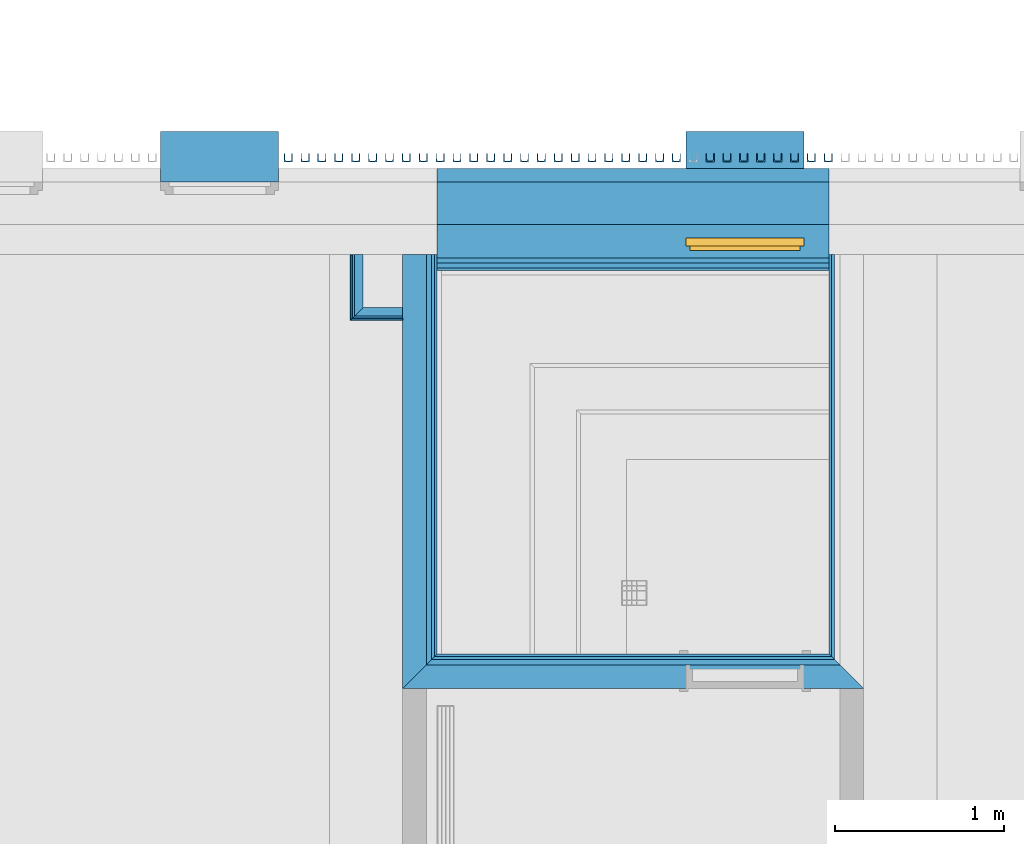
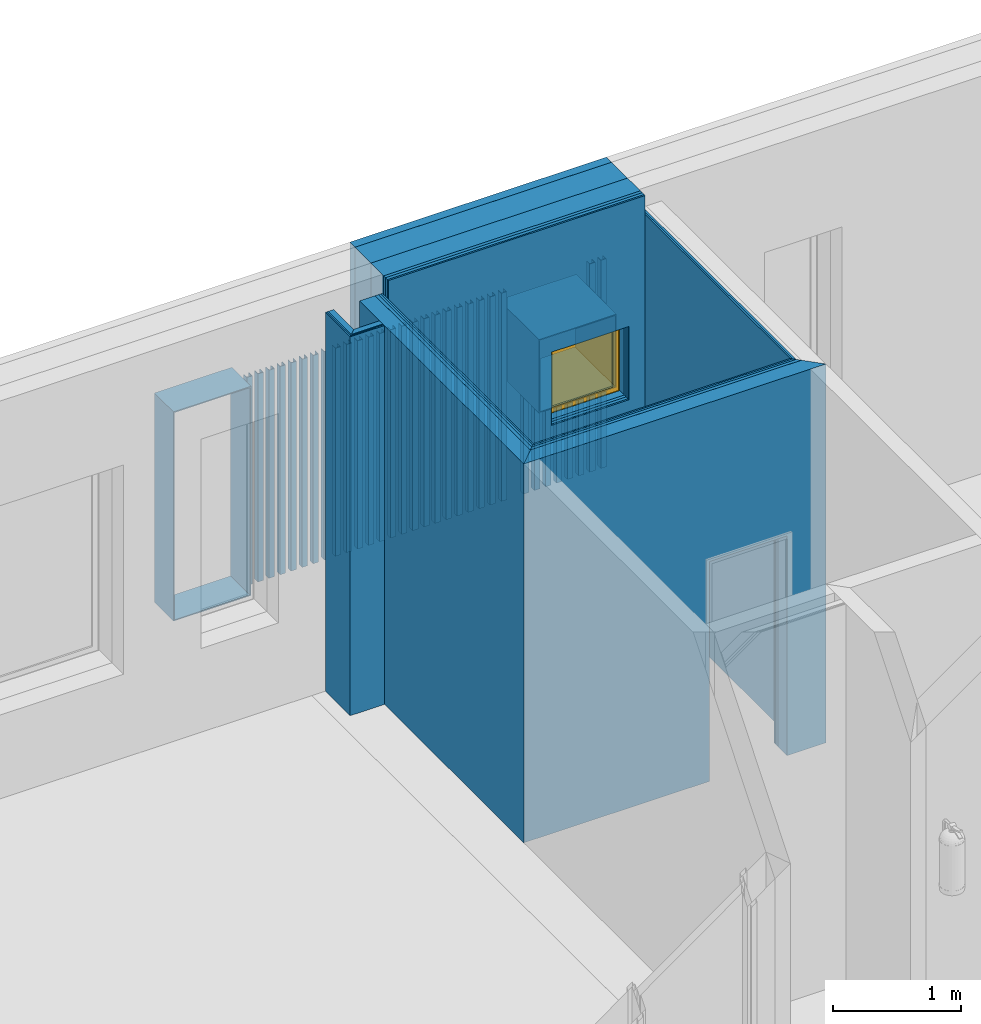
# One storey, part 27 of 100: 34 discrete accessories, 22 building element parts, 1 window, 2 openings, 6 elements without a shape of their own.
"""IFC2X3 building model written with IfcOpenShell, lengths in millimetres."""

from ifc_helpers import new_model, entity, si_unit, converted_unit, derived_unit, money_unit, direction, frame, origin_with_axes, origin_2d_with_axis, place, context, subcontext, project, spatial, polyline, rectangle, outline, extrude, open_shell, faceted_brep, surface_model, source, transform, mapped, material, type_object, element, fill, aggregate, save


model = new_model("IFC2X3")

# Units and contexts
model_context = context("Model", 3, precision=0.01, world=origin_with_axes(), true_north=direction((0.0, 1.0)))
body_context = subcontext(model_context, "Body", "Model", "MODEL_VIEW")
ifc_project = project(units=[si_unit("LENGTHUNIT", "METRE", prefix="MILLI"), si_unit("AREAUNIT", "SQUARE_METRE"), si_unit("VOLUMEUNIT", "CUBIC_METRE"), converted_unit("PLANEANGLEUNIT", "DEGREE", entity("IfcPlaneAngleMeasure", 0.0174532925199), si_unit("PLANEANGLEUNIT", "RADIAN"), dimensions=[0, 0, 0, 0, 0, 0, 0]), si_unit("SOLIDANGLEUNIT", "STERADIAN"), money_unit("EUR"), converted_unit("TIMEUNIT", "Year", entity("IfcTimeMeasure", 31556926.0), si_unit("TIMEUNIT", "SECOND"), dimensions=[0, 0, 1, 0, 0, 0, 0]), si_unit("MASSUNIT", "GRAM", prefix="KILO"), si_unit("THERMODYNAMICTEMPERATUREUNIT", "DEGREE_CELSIUS"), si_unit("LUMINOUSINTENSITYUNIT", "LUMEN"), si_unit("ENERGYUNIT", "JOULE", prefix="MEGA"), derived_unit("THERMALCONDUCTANCEUNIT", [(si_unit("POWERUNIT", "WATT"), 1), (si_unit("LENGTHUNIT", "METRE"), -1), (si_unit("THERMODYNAMICTEMPERATUREUNIT", "KELVIN"), -1)]), derived_unit("SPECIFICHEATCAPACITYUNIT", [(si_unit("ENERGYUNIT", "JOULE"), 1), (si_unit("MASSUNIT", "GRAM", prefix="KILO"), -1), (si_unit("THERMODYNAMICTEMPERATUREUNIT", "KELVIN"), -1)]), derived_unit("MASSDENSITYUNIT", [(si_unit("MASSUNIT", "GRAM", prefix="KILO"), 1), (si_unit("VOLUMEUNIT", "CUBIC_METRE"), -1)])], contexts=[model_context])

# Site, building, storey
site_placement = place(None, origin_with_axes())
site = spatial("IfcSite", under=ifc_project, at=site_placement, Name="Politse- ja Piirivalveameti ning Päästeameti ühishoone", CompositionType="ELEMENT")
building_placement = place(site_placement, origin_with_axes())
building = spatial("IfcBuilding", under=site, at=building_placement, Name="Politse- ja Piirivalveameti ning Päästeameti ühishoone", CompositionType="ELEMENT")
storey_placement = place(building_placement, frame((0.0, 0.0, 3800.0), z_axis=(0.0, 0.0, 1.0), x_axis=(1.0, 0.0, 0.0)))
storey = spatial("IfcBuildingStorey", under=building, at=storey_placement, Name="Teine korrus", CompositionType="ELEMENT", Elevation=3800.0)

# Window
window_style = type_object("IfcWindowStyle", Name="Window 23", ConstructionType="NOTDEFINED", OperationType="SINGLE_PANEL", ParameterTakesPrecedence=False, Sizeable=False)
shared_shape_1 = source(origin_with_axes(), body_context, "Body", "SurfaceModel", [
    faceted_brep([(-325.0, 0.0, 650.0), (-350.0, 0.0, 650.0), (-350.0, -50.0, 650.0), (-300.0, -50.0, 650.0), (-300.0, -25.0, 650.0), (-325.0, -25.0, 650.0), (-325.0, 0.0, 50.0), (-350.0, 0.0, 50.0), (-350.0, -50.0, 50.0), (-300.0, -50.0, 50.0), (-300.0, -25.0, 50.0), (-325.0, -25.0, 50.0)], [[[0, 1, 2, 3, 4, 5]], [[6, 7, 1, 0]], [[1, 7, 8, 2]], [[2, 8, 9, 3]], [[4, 3, 9, 10]], [[10, 11, 5, 4]], [[5, 11, 6, 0]], [[11, 10, 9, 8, 7, 6]]]),
    faceted_brep([(300.0, -25.0, 650.0), (300.0, -50.0, 650.0), (350.0, -50.0, 650.0), (350.0, 0.0, 650.0), (325.0, 0.0, 650.0), (325.0, -25.0, 650.0), (300.0, -25.0, 50.0), (300.0, -50.0, 50.0), (350.0, -50.0, 50.0), (350.0, 0.0, 50.0), (325.0, 0.0, 50.0), (325.0, -25.0, 50.0)], [[[0, 1, 2, 3, 4, 5]], [[6, 7, 1, 0]], [[8, 2, 1, 7]], [[9, 3, 2, 8]], [[4, 3, 9, 10]], [[10, 11, 5, 4]], [[5, 11, 6, 0]], [[11, 10, 9, 8, 7, 6]]]),
    faceted_brep([(300.0, -25.0, 50.0), (300.0, -50.0, 50.0), (350.0, -50.0, 50.0), (350.0, 0.0, 50.0), (325.0, 0.0, 50.0), (325.0, -25.0, 50.0), (-300.0, -25.0, 50.0), (-300.0, -50.0, 50.0), (-350.0, -50.0, 50.0), (-350.0, -50.0, 0.0), (350.0, -50.0, 0.0), (350.0, 0.0, 0.0), (-325.0, 0.0, 25.0), (325.0, 0.0, 25.0), (-350.0, 0.0, 0.0), (-350.0, 0.0, 50.0), (-325.0, 0.0, 50.0), (325.0, -25.0, 25.0), (-325.0, -25.0, 25.0), (-325.0, -25.0, 50.0)], [[[0, 1, 2, 3, 4, 5]], [[6, 7, 1, 0]], [[8, 9, 10, 2, 1, 7]], [[11, 3, 2, 10]], [[12, 13, 4, 3, 11, 14, 15, 16]], [[13, 17, 5, 4]], [[5, 17, 18, 19, 6, 0]], [[19, 16, 15, 8, 7, 6]], [[15, 14, 9, 8]], [[14, 11, 10, 9]], [[12, 18, 17, 13]], [[19, 18, 12, 16]]]),
    faceted_brep([(-325.0, 0.0, 650.0), (-350.0, 0.0, 650.0), (-350.0, 0.0, 700.0), (350.0, 0.0, 700.0), (350.0, 0.0, 650.0), (325.0, 0.0, 650.0), (325.0, 0.0, 675.0), (-325.0, 0.0, 675.0), (-325.0, -25.0, 650.0), (-300.0, -25.0, 650.0), (-300.0, -50.0, 650.0), (-350.0, -50.0, 650.0), (-350.0, -50.0, 700.0), (350.0, -50.0, 700.0), (350.0, -50.0, 650.0), (325.0, -25.0, 650.0), (300.0, -50.0, 650.0), (300.0, -25.0, 650.0), (325.0, -25.0, 675.0), (-325.0, -25.0, 675.0)], [[[0, 1, 2, 3, 4, 5, 6, 7]], [[8, 9, 10, 11, 1, 0]], [[2, 1, 11, 12]], [[3, 2, 12, 13]], [[4, 3, 13, 14]], [[15, 5, 4, 14, 16, 17]], [[5, 15, 18, 6]], [[6, 18, 19, 7]], [[7, 19, 8, 0]], [[17, 9, 8, 19, 18, 15]], [[17, 16, 10, 9]], [[14, 13, 12, 11, 10, 16]]]),
    faceted_brep([(-275.0, -25.0, 625.0), (-275.0, 25.0, 625.0), (-325.0, 25.0, 625.0), (-325.0, -25.0, 625.0), (-275.0, -25.0, 75.0), (-275.0, 25.0, 75.0), (-325.0, 25.0, 75.0), (-325.0, -25.0, 75.0)], [[[0, 1, 2, 3]], [[4, 5, 1, 0]], [[1, 5, 6, 2]], [[3, 2, 6, 7]], [[0, 3, 7, 4]], [[7, 6, 5, 4]]]),
    faceted_brep([(275.0, -25.0, 75.0), (275.0, 25.0, 75.0), (325.0, 25.0, 75.0), (325.0, -25.0, 75.0), (275.0, -25.0, 625.0), (275.0, 25.0, 625.0), (325.0, 25.0, 625.0), (325.0, -25.0, 625.0)], [[[0, 1, 2, 3]], [[4, 5, 1, 0]], [[1, 5, 6, 2]], [[3, 2, 6, 7]], [[0, 3, 7, 4]], [[7, 6, 5, 4]]]),
    faceted_brep([(325.0, -25.0, 25.0), (325.0, 25.0, 25.0), (325.0, 25.0, 75.0), (325.0, -25.0, 75.0), (-325.0, -25.0, 25.0), (-325.0, 25.0, 25.0), (-325.0, 25.0, 75.0), (-275.0, 25.0, 75.0), (275.0, 25.0, 75.0), (275.0, -25.0, 75.0), (-275.0, -25.0, 75.0), (-325.0, -25.0, 75.0)], [[[0, 1, 2, 3]], [[4, 5, 1, 0]], [[1, 5, 6, 7, 8, 2]], [[3, 2, 8, 9]], [[0, 3, 9, 10, 11, 4]], [[11, 6, 5, 4]], [[10, 7, 6, 11]], [[9, 8, 7, 10]]]),
    faceted_brep([(-325.0, -25.0, 675.0), (-325.0, 25.0, 675.0), (-325.0, 25.0, 625.0), (-325.0, -25.0, 625.0), (325.0, -25.0, 675.0), (325.0, 25.0, 675.0), (325.0, 25.0, 625.0), (275.0, 25.0, 625.0), (-275.0, 25.0, 625.0), (-275.0, -25.0, 625.0), (275.0, -25.0, 625.0), (325.0, -25.0, 625.0)], [[[0, 1, 2, 3]], [[4, 5, 1, 0]], [[1, 5, 6, 7, 8, 2]], [[3, 2, 8, 9]], [[0, 3, 9, 10, 11, 4]], [[11, 6, 5, 4]], [[10, 7, 6, 11]], [[9, 8, 7, 10]]]),
    surface_model("IfcShellBasedSurfaceModel", [(-275.0, -10.0, 75.0), (275.0, -10.0, 75.0), (275.0, -10.0, 625.0), (-275.0, -10.0, 625.0)], [open_shell([[[0, 1, 2, 3]]])]),
    surface_model("IfcShellBasedSurfaceModel", [(-275.0, 10.0, 75.0), (-275.0, 10.0, 625.0), (275.0, 10.0, 625.0), (275.0, 10.0, 75.0)], [open_shell([[[0, 1, 2, 3]]])]),
])
wall_4_placement = place(storey_placement, frame((43248.4115065, 20999.9530061, 0.0), z_axis=(0.0, 0.0, 1.0), x_axis=(1.0, -3.93175654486e-07, 0.0)))
opening_2_placement = place(wall_4_placement, frame((1822.99996265, 0.0, 1900.0), z_axis=(0.0, 0.0, 1.0), x_axis=(1.0, 0.0, 0.0)))
window_placement = place(opening_2_placement, frame((350.0, 0.0, 0.0), z_axis=(0.0, 0.0, 1.0), x_axis=(-1.0, 0.0, 0.0)))
window = element("IfcWindow", 1, at=window_placement, inside=storey, type_object=window_style, Name="A-04", ObjectType="WINDOW", OverallHeight=700.0, OverallWidth=700.0, context=body_context, shape_type="MappedRepresentation", body=[
    mapped(shared_shape_1, transform((350.0, -50.0, 0.0))),
])

# Discrete accessories
ifc_material_1 = material(Name="SV-01_Krohv - Kips")
discrete_accessory_type_1 = type_object("IfcDiscreteAccessoryType", Name="Architrave 01 23")
shared_shape_2 = source(origin_with_axes(), body_context, "Body", "Brep", [
    faceted_brep([(350.0, 0.0, -10.0), (350.0, -300.182356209, -10.0), (-350.0, -300.182356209, -10.0), (-350.0, 0.0, -10.0), (340.0, 0.0, 0.0), (340.0, -300.182356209, 0.0), (-340.0, -300.182356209, 0.0), (-340.0, 0.0, 0.0)], [[[0, 1, 2, 3]], [[4, 5, 1, 0]], [[1, 5, 6, 2]], [[3, 2, 6, 7]], [[0, 3, 7, 4]], [[7, 6, 5, 4]]]),
    faceted_brep([(-350.0, 0.0, -10.0), (-350.0, -300.182356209, -10.0), (-350.0, -300.182356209, 1990.0), (-350.0, 0.0, 1990.0), (-340.0, 0.0, 0.0), (-340.0, -300.182356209, 0.0), (-340.0, -300.182356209, 1980.0), (-340.0, 0.0, 1980.0)], [[[0, 1, 2, 3]], [[4, 5, 1, 0]], [[1, 5, 6, 2]], [[3, 2, 6, 7]], [[0, 3, 7, 4]], [[7, 6, 5, 4]]]),
    faceted_brep([(-350.0, 0.0, 1990.0), (-350.0, -300.182356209, 1990.0), (350.0, -300.182356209, 1990.0), (350.0, 0.0, 1990.0), (-340.0, 0.0, 1980.0), (-340.0, -300.182356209, 1980.0), (340.0, -300.182356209, 1980.0), (340.0, 0.0, 1980.0)], [[[0, 1, 2, 3]], [[4, 5, 1, 0]], [[1, 5, 6, 2]], [[3, 2, 6, 7]], [[0, 3, 7, 4]], [[7, 6, 5, 4]]]),
    faceted_brep([(350.0, 0.0, 1990.0), (350.0, -300.182356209, 1990.0), (350.0, -300.182356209, -10.0), (350.0, 0.0, -10.0), (340.0, 0.0, 1980.0), (340.0, -300.182356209, 1980.0), (340.0, -300.182356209, 0.0), (340.0, 0.0, 0.0)], [[[0, 1, 2, 3]], [[4, 5, 1, 0]], [[1, 5, 6, 2]], [[3, 2, 6, 7]], [[0, 3, 7, 4]], [[7, 6, 5, 4]]]),
])
discrete_accessory_1_placement = place(storey_placement, frame((41959.1843169, 21429.9520832, 810.0), z_axis=(0.0, 0.0, 1.0), x_axis=(-1.0, 0.0, 0.0)))
element("IfcDiscreteAccessory", 2, at=discrete_accessory_1_placement, inside=storey, type_object=discrete_accessory_type_1, material=ifc_material_1, Name="AKNARAAM 01", context=body_context, shape_type="MappedRepresentation", body=[
    mapped(shared_shape_2, transform((0.0, 0.0, 0.0))),
])
ifc_material_2 = material(Name="ET-05_Teras")
discrete_accessory_type_2 = type_object("IfcDiscreteAccessoryType", Name="UAP Column 23")
shared_shape_3 = source(origin_with_axes(), body_context, "Body", "Brep", [
    faceted_brep([(-25.0, -25.0, 0.0), (-25.0, -25.0, 1990.0), (-25.0, -20.0, 1990.0), (-25.0, -20.0, 0.0), (25.0, -25.0, 0.0), (25.0, -25.0, 1990.0), (25.0, 25.0, 1990.0), (-25.0, 25.0, 1990.0), (-25.0, 20.0, 1990.0), (8.5, 20.0, 1990.0), (14.25, 18.4592921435, 1990.0), (18.4592921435, 14.25, 1990.0), (20.0, 8.5, 1990.0), (20.0, -8.5, 1990.0), (18.4592921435, -14.25, 1990.0), (14.25, -18.4592921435, 1990.0), (8.5, -20.0, 1990.0), (8.5, -20.0, 0.0), (14.25, -18.4592921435, 0.0), (18.4592921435, -14.25, 0.0), (20.0, -8.5, 0.0), (20.0, 8.5, 0.0), (18.4592921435, 14.25, 0.0), (14.25, 18.4592921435, 0.0), (8.5, 20.0, 0.0), (-25.0, 20.0, 0.0), (-25.0, 25.0, 0.0), (25.0, 25.0, 0.0)], [[[0, 1, 2, 3]], [[4, 5, 1, 0]], [[1, 5, 6, 7, 8, 9, 10, 11, 12, 13, 14, 15, 16, 2]], [[3, 2, 16, 17]], [[0, 3, 17, 18, 19, 20, 21, 22, 23, 24, 25, 26, 27, 4]], [[27, 6, 5, 4]], [[26, 7, 6, 27]], [[25, 8, 7, 26]], [[24, 9, 8, 25]], [[23, 10, 9, 24]], [[22, 11, 10, 23]], [[21, 12, 11, 22]], [[20, 13, 12, 21]], [[19, 14, 13, 20]], [[18, 15, 14, 19]], [[17, 16, 15, 18]]]),
])
for number, where, z_axis, x_axis in (
    (3, (44365.4116664, 21574.5962075, 810.000049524), (0.0, 0.0, 1.0), (1.30049800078e-07, -1.0, 0.0)),
    (4, (44465.4116664, 21574.5962205, 810.000049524), (0.0, 0.0, 1.0), (1.30049800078e-07, -1.0, 0.0)),
    (5, (44565.4116664, 21574.5962336, 810.000049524), (0.0, 0.0, 1.0), (1.30049800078e-07, -1.0, 0.0)),
    (6, (43965.4116664, 21574.5961555, 810.000049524), (0.0, 0.0, 1.0), (1.30049800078e-07, -1.0, 0.0)),
    (7, (44065.4116664, 21574.5961685, 810.000049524), (0.0, 0.0, 1.0), (1.30049800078e-07, -1.0, 0.0)),
    (8, (44165.4116664, 21574.5961815, 810.000049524), (0.0, 0.0, 1.0), (1.30049800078e-07, -1.0, 0.0)),
    (9, (44265.4116664, 21574.5961945, 810.000049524), (0.0, 0.0, 1.0), (1.30049800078e-07, -1.0, 0.0)),
    (10, (43665.4116664, 21574.5961165, 810.000049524), (0.0, 0.0, 1.0), (1.30049800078e-07, -1.0, 0.0)),
    (11, (43765.4116664, 21574.5961295, 810.000049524), (0.0, 0.0, 1.0), (1.30049800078e-07, -1.0, 0.0)),
    (12, (43865.4116664, 21574.5961425, 810.000049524), (0.0, 0.0, 1.0), (1.30049800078e-07, -1.0, 0.0)),
    (13, (43365.4116664, 21574.5960775, 810.000049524), (0.0, 0.0, 1.0), (1.30049800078e-07, -1.0, 0.0)),
    (14, (43465.4116664, 21574.5960905, 810.000049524), (0.0, 0.0, 1.0), (1.30049800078e-07, -1.0, 0.0)),
    (15, (43565.4116664, 21574.5961035, 810.000049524), (0.0, 0.0, 1.0), (1.30049800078e-07, -1.0, 0.0)),
    (16, (43065.4116664, 21574.5960385, 810.000049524), (0.0, 0.0, 1.0), (1.30049800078e-07, -1.0, 0.0)),
    (17, (43165.4116664, 21574.5960515, 810.000049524), (0.0, 0.0, 1.0), (1.30049800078e-07, -1.0, 0.0)),
    (18, (43265.4116664, 21574.5960645, 810.000049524), (0.0, 0.0, 1.0), (1.30049800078e-07, -1.0, 0.0)),
    (19, (42865.4116664, 21574.5960125, 810.000049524), (0.0, 0.0, 1.0), (1.30049800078e-07, -1.0, 0.0)),
    (20, (42965.4116664, 21574.5960255, 810.000049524), (0.0, 0.0, 1.0), (1.30049800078e-07, -1.0, 0.0)),
    (21, (44665.4116664, 21574.5962466, 810.000049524), (0.0, 0.0, 1.0), (1.30049800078e-07, -1.0, 0.0)),
    (22, (42665.4116664, 21574.5959865, 810.000049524), (0.0, 0.0, 1.0), (1.30049800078e-07, -1.0, 0.0)),
    (23, (42765.4116664, 21574.5959995, 810.000049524), (0.0, 0.0, 1.0), (1.30049800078e-07, -1.0, 0.0)),
    (24, (42465.4116664, 21574.5959604, 810.000049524), (0.0, 0.0, 1.0), (1.30049800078e-07, -1.0, 0.0)),
    (25, (42565.4116664, 21574.5959735, 810.000049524), (0.0, 0.0, 1.0), (1.30049800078e-07, -1.0, 0.0)),
    (26, (42365.4116664, 21574.5959474, 810.000049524), (0.0, 0.0, 1.0), (1.30049800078e-07, -1.0, 0.0)),
    (27, (45464.9647265, 21574.5961035, 810.000049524), (0.0, 0.0, 1.0), (1.30049800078e-07, -1.0, 0.0)),
    (28, (45564.9647265, 21574.5961165, 810.000049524), (0.0, 0.0, 1.0), (1.30049800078e-07, -1.0, 0.0)),
):
    element("IfcDiscreteAccessory", number, at=place(storey_placement, frame(where, z_axis=z_axis, x_axis=x_axis)), inside=storey, type_object=discrete_accessory_type_2, material=ifc_material_2, Name="Fassaadiribid", context=body_context, shape_type="MappedRepresentation", body=[
        mapped(shared_shape_3, transform((0.0, 0.0, 0.0))),
    ])
shared_shape_4 = source(origin_with_axes(), body_context, "Body", "Brep", [
    faceted_brep([(350.0, 0.0, -10.0), (350.0, -630.0, -10.0), (-350.0, -630.0, -10.0), (-350.0, 0.0, -10.0), (340.0, 0.0, 0.0), (340.0, -630.0, 0.0), (-340.0, -630.0, 0.0), (-340.0, 0.0, 0.0)], [[[0, 1, 2, 3]], [[4, 5, 1, 0]], [[1, 5, 6, 2]], [[3, 2, 6, 7]], [[0, 3, 7, 4]], [[7, 6, 5, 4]]]),
    faceted_brep([(-350.0, 0.0, -10.0), (-350.0, -630.0, -10.0), (-350.0, -630.0, 690.0), (-350.0, 0.0, 690.0), (-340.0, 0.0, 0.0), (-340.0, -630.0, 0.0), (-340.0, -630.0, 680.0), (-340.0, 0.0, 680.0)], [[[0, 1, 2, 3]], [[4, 5, 1, 0]], [[1, 5, 6, 2]], [[3, 2, 6, 7]], [[0, 3, 7, 4]], [[7, 6, 5, 4]]]),
    faceted_brep([(-350.0, 0.0, 690.0), (-350.0, -630.0, 690.0), (350.0, -630.0, 690.0), (350.0, 0.0, 690.0), (-340.0, 0.0, 680.0), (-340.0, -630.0, 680.0), (340.0, -630.0, 680.0), (340.0, 0.0, 680.0)], [[[0, 1, 2, 3]], [[4, 5, 1, 0]], [[1, 5, 6, 2]], [[3, 2, 6, 7]], [[0, 3, 7, 4]], [[7, 6, 5, 4]]]),
    faceted_brep([(350.0, 0.0, 690.0), (350.0, -630.0, 690.0), (350.0, -630.0, -10.0), (350.0, 0.0, -10.0), (340.0, 0.0, 680.0), (340.0, -630.0, 680.0), (340.0, -630.0, 0.0), (340.0, 0.0, 0.0)], [[[0, 1, 2, 3]], [[4, 5, 1, 0]], [[1, 5, 6, 2]], [[3, 2, 6, 7]], [[0, 3, 7, 4]], [[7, 6, 5, 4]]]),
])
discrete_accessory_2_placement = place(storey_placement, frame((45071.4115085, 21099.952427, 1910.0), z_axis=(0.0, 0.0, 1.0), x_axis=(-1.0, 0.0, 0.0)))
element("IfcDiscreteAccessory", 29, at=discrete_accessory_2_placement, inside=storey, type_object=discrete_accessory_type_1, material=ifc_material_1, Name="AKNARAAM 01", context=body_context, shape_type="MappedRepresentation", body=[
    mapped(shared_shape_4, transform((0.0, 0.0, 0.0))),
])
shared_shape_5 = source(origin_with_axes(), body_context, "Body", "Brep", [
    faceted_brep([(-25.0, -25.0, 0.0), (-25.0, -25.0, 1089.99995048), (-25.0, -20.0, 1089.99995048), (-25.0, -20.0, 0.0), (25.0, -25.0, 0.0), (25.0, -25.0, 1089.99995048), (25.0, 25.0, 1089.99995048), (-25.0, 25.0, 1089.99995048), (-25.0, 20.0, 1089.99995048), (8.5, 20.0, 1089.99995048), (14.25, 18.4592921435, 1089.99995048), (18.4592921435, 14.25, 1089.99995048), (20.0, 8.5, 1089.99995048), (20.0, -8.5, 1089.99995048), (18.4592921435, -14.25, 1089.99995048), (14.25, -18.4592921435, 1089.99995048), (8.5, -20.0, 1089.99995048), (8.5, -20.0, 0.0), (14.25, -18.4592921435, 0.0), (18.4592921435, -14.25, 0.0), (20.0, -8.5, 0.0), (20.0, 8.5, 0.0), (18.4592921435, 14.25, 0.0), (14.25, 18.4592921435, 0.0), (8.5, 20.0, 0.0), (-25.0, 20.0, 0.0), (-25.0, 25.0, 0.0), (25.0, 25.0, 0.0)], [[[0, 1, 2, 3]], [[4, 5, 1, 0]], [[1, 5, 6, 7, 8, 9, 10, 11, 12, 13, 14, 15, 16, 2]], [[3, 2, 16, 17]], [[0, 3, 17, 18, 19, 20, 21, 22, 23, 24, 25, 26, 27, 4]], [[27, 6, 5, 4]], [[26, 7, 6, 27]], [[25, 8, 7, 26]], [[24, 9, 8, 25]], [[23, 10, 9, 24]], [[22, 11, 10, 23]], [[21, 12, 11, 22]], [[20, 13, 12, 21]], [[19, 14, 13, 20]], [[18, 15, 14, 19]], [[17, 16, 15, 18]]]),
])
for number, where, z_axis, x_axis in (
    (30, (45264.9647265, 21574.5960775, 810.000049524), (0.0, 0.0, 1.0), (1.30049800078e-07, -1.0, 0.0)),
    (31, (45364.9647265, 21574.5960905, 810.000049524), (0.0, 0.0, 1.0), (1.30049800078e-07, -1.0, 0.0)),
    (32, (45064.9647265, 21574.5960515, 810.000049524), (0.0, 0.0, 1.0), (1.30049800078e-07, -1.0, 0.0)),
    (33, (45164.9647265, 21574.5960645, 810.000049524), (0.0, 0.0, 1.0), (1.30049800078e-07, -1.0, 0.0)),
    (34, (44864.9647265, 21574.5960255, 810.000049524), (0.0, 0.0, 1.0), (1.30049800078e-07, -1.0, 0.0)),
    (35, (44964.9647265, 21574.5960385, 810.000049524), (0.0, 0.0, 1.0), (1.30049800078e-07, -1.0, 0.0)),
):
    element("IfcDiscreteAccessory", number, at=place(storey_placement, frame(where, z_axis=z_axis, x_axis=x_axis)), inside=storey, type_object=discrete_accessory_type_2, material=ifc_material_2, Name="Fassaadiribid", context=body_context, shape_type="MappedRepresentation", body=[
        mapped(shared_shape_5, transform((0.0, 0.0, 0.0))),
    ])

# Wall, building element parts
wall_type_1 = type_object("IfcWallType", Name="SS-07_Sisesein - leiliruum 205", PredefinedType="NOTDEFINED")
wall_1_placement = place(storey_placement, frame((43043.4114692, 20999.8947978, 0.0), z_axis=(0.0, 0.0, 1.0), x_axis=(0.0, -1.0, 0.0)))
wall_1 = element("IfcWall", 36, at=wall_1_placement, inside=storey, type_object=wall_type_1, Name="SS-07")
ifc_material_3 = material(Name="ET-01_Puit - Konstruktsioon")
building_element_part_1_placement = place(wall_1_placement, origin_with_axes())
building_element_part_1 = element("IfcBuildingElementPart", 37, at=building_element_part_1_placement, material=ifc_material_3, Name="ET-01_Puit - Konstruktsioon", context=body_context, shape_type="SweptSolid", body=[
    extrude(outline(polyline([(0.0, 190.0), (2379.852645, 190.0), (2364.852645, 205.0), (0.0, 205.0), (0.0, 190.0)])), origin_with_axes(), (0.0, 0.0, 1.0), 3620.0),
])
ifc_material_4 = material(Name="Õhkvahe - Raam")
building_element_part_2_placement = place(wall_1_placement, origin_with_axes())
building_element_part_2 = element("IfcBuildingElementPart", 38, at=building_element_part_2_placement, material=ifc_material_4, Name="Õhkvahe - Raam", context=body_context, shape_type="SweptSolid", body=[
    extrude(outline(polyline([(0.0, 170.0), (2399.852645, 170.0), (2379.852645, 190.0), (0.0, 190.0), (0.0, 170.0)])), origin_with_axes(), (0.0, 0.0, 1.0), 3620.0),
])
ifc_material_5 = material(Name="SOJ-02_Soojustus - Fiiber Kõva")
building_element_part_3_placement = place(wall_1_placement, origin_with_axes())
building_element_part_3 = element("IfcBuildingElementPart", 39, at=building_element_part_3_placement, material=ifc_material_5, Name="SOJ-02_Soojustus - Fiiber Kõva", context=body_context, shape_type="SweptSolid", body=[
    extrude(outline(polyline([(0.0, 140.0), (2429.852645, 140.0), (2399.852645, 170.0), (0.0, 170.0), (0.0, 140.0)])), origin_with_axes(), (0.0, 0.0, 1.0), 3620.0),
])
ifc_material_6 = material(Name="KON-05_Betoon Plokk - Konstuktsioon")
building_element_part_4_placement = place(wall_1_placement, origin_with_axes())
building_element_part_4 = element("IfcBuildingElementPart", 40, at=building_element_part_4_placement, material=ifc_material_6, Name="KON-05_Betoon Plokk - Konstuktsioon", context=body_context, shape_type="SweptSolid", body=[
    extrude(outline(polyline([(0.0, 0.0), (2569.852645, 0.0), (2429.852645, 140.0), (0.0, 140.0), (0.0, 0.0)])), origin_with_axes(), (0.0, 0.0, 1.0), 3620.0),
])
aggregate(wall_1, [building_element_part_1, building_element_part_2, building_element_part_3, building_element_part_4])

wall_2_placement = place(storey_placement, frame((45773.4114692, 20999.9035368, 0.0), z_axis=(0.0, 0.0, 1.0), x_axis=(0.0, -1.0, 0.0)))
wall_2 = element("IfcWall", 41, at=wall_2_placement, inside=storey, type_object=wall_type_1, Name="SS-07")
building_element_part_5_placement = place(wall_2_placement, origin_with_axes())
building_element_part_5 = element("IfcBuildingElementPart", 42, at=building_element_part_5_placement, material=ifc_material_3, Name="ET-01_Puit - Konstruktsioon", context=body_context, shape_type="SweptSolid", body=[
    extrude(outline(polyline([(0.0, -205.0), (2364.86138396, -205.0), (2379.86138396, -190.0), (0.0, -190.0), (0.0, -205.0)])), origin_with_axes(), (0.0, 0.0, 1.0), 3620.0),
])
building_element_part_6_placement = place(wall_2_placement, origin_with_axes())
building_element_part_6 = element("IfcBuildingElementPart", 43, at=building_element_part_6_placement, material=ifc_material_4, Name="Õhkvahe - Raam", context=body_context, shape_type="SweptSolid", body=[
    extrude(outline(polyline([(0.0, -190.0), (2379.86138396, -190.0), (2399.86138396, -170.0), (0.0, -170.0), (0.0, -190.0)])), origin_with_axes(), (0.0, 0.0, 1.0), 3620.0),
])
aggregate(wall_2, [building_element_part_5, building_element_part_6])

# Wall, opening, building element parts
wall_3_placement = place(storey_placement, frame((43043.4114692, 18430.0421528, 0.0), z_axis=(0.0, 0.0, 1.0), x_axis=(1.0, 0.0, 0.0)))
wall_3 = element("IfcWall", 44, at=wall_3_placement, inside=storey, type_object=wall_type_1, Name="SS-07")
opening_1_placement = place(wall_3_placement, frame((2028.0, 0.0, 0.0), z_axis=(0.0, 0.0, 1.0), x_axis=(1.0, 0.0, 0.0)))
element("IfcOpeningElement", 45, at=opening_1_placement, cuts=wall_3, Name="SU-03-1", context=body_context, shape_type="SweptSolid", body=[
    extrude(rectangle(XDim=700.0, YDim=2100.0, at=origin_2d_with_axis()), frame((0.0, 205.0, 1050.0), z_axis=(0.0, 1.0, 0.0), x_axis=(1.0, 0.0, 0.0)), (0.0, 0.0, -1.0), 615.0),
    extrude(rectangle(XDim=774.0, YDim=2137.0, at=origin_2d_with_axis()), frame((0.0, 205.0, 1068.5), z_axis=(0.0, 1.0, 0.0), x_axis=(1.0, 0.0, 0.0)), (0.0, 0.0, 1.0), 205.0),
    extrude(rectangle(XDim=774.0, YDim=2137.0, at=origin_2d_with_axis()), frame((0.0, 0.0, 1068.5), z_axis=(0.0, -1.0, 0.0), x_axis=(1.0, 0.0, 0.0)), (0.0, 0.0, 1.0), 205.0),
])
building_element_part_7_placement = place(wall_3_placement, origin_with_axes())
building_element_part_7 = element("IfcBuildingElementPart", 46, at=building_element_part_7_placement, material=ifc_material_3, Name="ET-01_Puit - Konstruktsioon", context=body_context, shape_type="SweptSolid", body=[
    extrude(outline(polyline([(190.0, 190.0), (2540.0, 190.0), (2525.0, 205.0), (205.0, 205.0), (190.0, 190.0)])), origin_with_axes(), (0.0, 0.0, 1.0), 3620.0),
])
building_element_part_8_placement = place(wall_3_placement, origin_with_axes())
building_element_part_8 = element("IfcBuildingElementPart", 47, at=building_element_part_8_placement, material=ifc_material_4, Name="Õhkvahe - Raam", context=body_context, shape_type="SweptSolid", body=[
    extrude(outline(polyline([(170.0, 170.0), (2560.0, 170.0), (2540.0, 190.0), (190.0, 190.0), (170.0, 170.0)])), origin_with_axes(), (0.0, 0.0, 1.0), 3620.0),
])
building_element_part_9_placement = place(wall_3_placement, origin_with_axes())
building_element_part_9 = element("IfcBuildingElementPart", 48, at=building_element_part_9_placement, material=ifc_material_5, Name="SOJ-02_Soojustus - Fiiber Kõva", context=body_context, shape_type="SweptSolid", body=[
    extrude(outline(polyline([(140.0, 140.0), (2590.0, 140.0), (2560.0, 170.0), (170.0, 170.0), (140.0, 140.0)])), origin_with_axes(), (0.0, 0.0, 1.0), 3620.0),
])
building_element_part_10_placement = place(wall_3_placement, origin_with_axes())
building_element_part_10 = element("IfcBuildingElementPart", 49, at=building_element_part_10_placement, material=ifc_material_6, Name="KON-05_Betoon Plokk - Konstuktsioon", context=body_context, shape_type="SweptSolid", body=[
    extrude(outline(polyline([(0.0, 0.0), (2730.0, 0.0), (2590.0, 140.0), (140.0, 140.0), (0.0, 0.0)])), origin_with_axes(), (0.0, 0.0, 1.0), 3620.0),
])
aggregate(wall_3, [building_element_part_7, building_element_part_8, building_element_part_9, building_element_part_10])

# Wall, opening
wall_type_2 = type_object("IfcWallType", Name="VS-10_välissein leiliruum 605", PredefinedType="NOTDEFINED")
wall_4 = element("IfcWall", 50, at=wall_4_placement, inside=storey, type_object=wall_type_2, Name="VS-10")
opening_2 = element("IfcOpeningElement", 51, at=opening_2_placement, cuts=wall_4, Name="A-04", context=body_context, shape_type="SweptSolid", body=[
    extrude(rectangle(XDim=700.0, YDim=700.0, at=origin_2d_with_axis()), frame((0.0, 100.0, 350.0), z_axis=(0.0, -1.0, 0.0), x_axis=(-1.0, 0.0, 0.0)), (0.0, 0.0, -1.0), 1015.0),
    extrude(rectangle(XDim=700.0, YDim=700.0, at=origin_2d_with_axis()), frame((0.0, 100.0, 350.0), z_axis=(0.0, 1.0, 0.0), x_axis=(-1.0, 0.0, 0.0)), (0.0, 0.0, -1.0), 800.0),
])

fill(opening_2, window)

# Building element part
building_element_part_11_placement = place(wall_4_placement, origin_with_axes())
building_element_part_11 = element("IfcBuildingElementPart", 52, at=building_element_part_11_placement, material=ifc_material_3, Name="ET-01_Puit - Konstruktsioon", context=body_context, shape_type="SweptSolid", body=[
    extrude(outline(polyline([(2.0499179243e-05, -95.0), (2320.0, -95.0), (2320.0, -80.0), (1.72624723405e-05, -80.0), (2.0499179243e-05, -95.0)])), origin_with_axes(), (0.0, 0.0, 1.0), 3800.0),
])

ifc_material_7 = material(Name="Õhkvahe")
building_element_part_12_placement = place(wall_4_placement, origin_with_axes())
building_element_part_12 = element("IfcBuildingElementPart", 53, at=building_element_part_12_placement, material=ifc_material_7, Name="Õhkvahe", context=body_context, shape_type="SweptSolid", body=[
    extrude(outline(polyline([(1.72624723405e-05, -80.0), (2320.0, -80.0), (2320.0, -50.0), (1.07890443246e-05, -50.0), (1.72624723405e-05, -80.0)])), origin_with_axes(), (0.0, 0.0, 1.0), 3800.0),
])

building_element_part_13_placement = place(wall_4_placement, origin_with_axes())
building_element_part_13 = element("IfcBuildingElementPart", 54, at=building_element_part_13_placement, material=ifc_material_5, Name="SOJ-02_Soojustus - Fiiber Kõva", context=body_context, shape_type="SweptSolid", body=[
    extrude(outline(polyline([(1.07890443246e-05, -50.0), (2320.0, -50.0), (2320.0, -20.0), (4.31562341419e-06, -20.0), (1.07890443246e-05, -50.0)])), origin_with_axes(), (0.0, 0.0, 1.0), 3800.0),
])

ifc_material_8 = material(Name="KON-04_Betoon - Konstuktsioon")
building_element_part_14_placement = place(wall_4_placement, origin_with_axes())
building_element_part_14 = element("IfcBuildingElementPart", 55, at=building_element_part_14_placement, material=ifc_material_8, Name="KON-04_Betoon - Konstuktsioon", context=body_context, shape_type="SweptSolid", body=[
    extrude(outline(polyline([(4.31562341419e-06, -20.0), (2320.0, -20.0), (2320.0, 180.0), (-3.88405183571e-05, 180.0), (4.31562341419e-06, -20.0)])), origin_with_axes(), (0.0, 0.0, 1.0), 3800.0),
])

ifc_material_9 = material(Name="SOJ-06_Soojustus - Plastik Kõva")
building_element_part_15_placement = place(wall_4_placement, origin_with_axes())
building_element_part_15 = element("IfcBuildingElementPart", 56, at=building_element_part_15_placement, material=ifc_material_9, Name="SOJ-06_Soojustus - Plastik Kõva", context=body_context, shape_type="SweptSolid", body=[
    extrude(outline(polyline([(-3.88405183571e-05, 180.0), (2320.0, 180.0), (2320.0, 430.0), (-9.2785704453e-05, 430.0), (-3.88405183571e-05, 180.0)])), origin_with_axes(), (0.0, 0.0, 1.0), 3800.0),
])

building_element_part_16_placement = place(wall_4_placement, origin_with_axes())
building_element_part_16 = element("IfcBuildingElementPart", 57, at=building_element_part_16_placement, material=ifc_material_8, Name="KON-04_Betoon - Konstuktsioon", context=body_context, shape_type="SweptSolid", body=[
    extrude(outline(polyline([(-9.2785704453e-05, 430.0), (2320.0, 430.0), (2320.0, 510.0), (-0.000110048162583, 510.0), (-9.2785704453e-05, 430.0)])), origin_with_axes(), (0.0, 0.0, 1.0), 3800.0),
])

aggregate(wall_4, [building_element_part_11, building_element_part_12, building_element_part_13, building_element_part_14, building_element_part_15, building_element_part_16])

# Wall, building element parts
wall_type_3 = type_object("IfcWallType", Name="SS-13_kergsein 75 ümber el-kilbi 75", PredefinedType="NOTDEFINED")
wall_5_placement = place(storey_placement, frame((42733.2757176, 20611.5434962, 0.0), z_axis=(0.0, 0.0, 1.0), x_axis=(0.0, 1.0, 0.0)))
wall_5 = element("IfcWall", 58, at=wall_5_placement, inside=storey, type_object=wall_type_3, Name="SS-13")
building_element_part_17_placement = place(wall_5_placement, origin_with_axes())
building_element_part_17 = element("IfcBuildingElementPart", 59, at=building_element_part_17_placement, material=ifc_material_4, Name="Õhkvahe - Raam", context=body_context, shape_type="SweptSolid", body=[
    extrude(outline(polyline([(75.0, -75.0), (388.409581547, -75.0), (388.409579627, -25.0), (25.0, -25.0), (75.0, -75.0)])), origin_with_axes(), (0.0, 0.0, 1.0), 3620.0),
])
ifc_material_10 = material(Name="SKR-02_Kipsplaat")
building_element_part_18_placement = place(wall_5_placement, origin_with_axes())
building_element_part_18 = element("IfcBuildingElementPart", 60, at=building_element_part_18_placement, material=ifc_material_10, Name="SKR-02_Kipsplaat", context=body_context, shape_type="SweptSolid", body=[
    extrude(outline(polyline([(25.0, -25.0), (388.409579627, -25.0), (388.409579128, -12.0), (12.0, -12.0), (25.0, -25.0)])), origin_with_axes(), (0.0, 0.0, 1.0), 3620.0),
])
building_element_part_19_placement = place(wall_5_placement, origin_with_axes())
building_element_part_19 = element("IfcBuildingElementPart", 61, at=building_element_part_19_placement, material=ifc_material_10, Name="SKR-02_Kipsplaat", context=body_context, shape_type="SweptSolid", body=[
    extrude(outline(polyline([(12.0, -12.0), (388.409579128, -12.0), (388.409578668, 0.0), (0.0, 0.0), (12.0, -12.0)])), origin_with_axes(), (0.0, 0.0, 1.0), 3620.0),
])
aggregate(wall_5, [building_element_part_17, building_element_part_18, building_element_part_19])

wall_6_placement = place(storey_placement, frame((42733.2757176, 20611.5434962, 0.0), z_axis=(0.0, 0.0, 1.0), x_axis=(1.0, 0.0, 0.0)))
wall_6 = element("IfcWall", 62, at=wall_6_placement, inside=storey, type_object=wall_type_3, Name="SS-13")
building_element_part_20_placement = place(wall_6_placement, origin_with_axes())
building_element_part_20 = element("IfcBuildingElementPart", 63, at=building_element_part_20_placement, material=ifc_material_4, Name="Õhkvahe - Raam", context=body_context, shape_type="SweptSolid", body=[
    extrude(outline(polyline([(25.0, 25.0), (310.13575157, 25.0), (310.13575157, 75.0), (75.0, 75.0), (25.0, 25.0)])), origin_with_axes(), (0.0, 0.0, 1.0), 3620.0),
])
building_element_part_21_placement = place(wall_6_placement, origin_with_axes())
building_element_part_21 = element("IfcBuildingElementPart", 64, at=building_element_part_21_placement, material=ifc_material_10, Name="SKR-02_Kipsplaat", context=body_context, shape_type="SweptSolid", body=[
    extrude(outline(polyline([(12.0, 12.0), (310.13575157, 12.0), (310.13575157, 25.0), (25.0, 25.0), (12.0, 12.0)])), origin_with_axes(), (0.0, 0.0, 1.0), 3620.0),
])
building_element_part_22_placement = place(wall_6_placement, origin_with_axes())
building_element_part_22 = element("IfcBuildingElementPart", 65, at=building_element_part_22_placement, material=ifc_material_10, Name="SKR-02_Kipsplaat", context=body_context, shape_type="SweptSolid", body=[
    extrude(outline(polyline([(0.0, 0.0), (310.13575157, 0.0), (310.13575157, 12.0), (12.0, 12.0), (0.0, 0.0)])), origin_with_axes(), (0.0, 0.0, 1.0), 3620.0),
])
aggregate(wall_6, [building_element_part_20, building_element_part_21, building_element_part_22])

save(model, "model.ifc")
